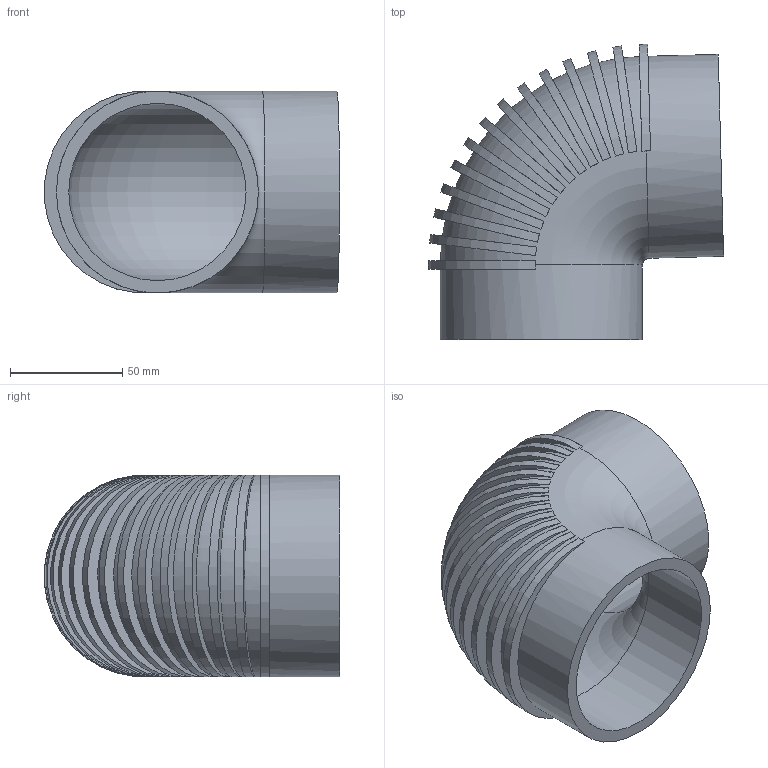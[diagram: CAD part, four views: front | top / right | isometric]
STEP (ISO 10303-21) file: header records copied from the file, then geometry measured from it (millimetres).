
FILE_DESCRIPTION(/* description */ (''),/* implementation_level */ '2;1');
FILE_NAME(/* name */ 'Z:\Geberit\Export\NewStep\Bogen_Ipart\stp\308880.stp',/* time_stamp */ '2014-04-03T16:43:28+02:00',/* author */ ('Marco'),/* organization */ (''),/* preprocessor_version */ 'ST-DEVELOPER v15.2',/* originating_system */ 'Autodesk Inventor 2014',/* authorisation */ '');
FILE_SCHEMA (('AUTOMOTIVE_DESIGN { 1 0 10303 214 3 1 1 }'));
Length unit declared in the file: millimetre
Products named in the file (1): 308880
Bounding box: 131.48 x 131.59 x 90 mm (x, y, z)
Volume: 232014.4 mm3; surface area: 92082.3 mm2
Topology: 1 solids, 1 shells, 50 faces, 144 edges, 96 vertices
Faces by surface type: plane 30, cylinder 18, torus 2
Full cylindrical faces by diameter (mm): 79 x2, 90 x2
Entity records: 2423 total; most frequent: CARTESIAN_POINT 1253, ORIENTED_EDGE 244, DIRECTION 182, EDGE_CURVE 122, VERTEX_POINT 92, AXIS2_PLACEMENT_3D 89, B_SPLINE_CURVE_WITH_KNOTS 80, EDGE_LOOP 70
